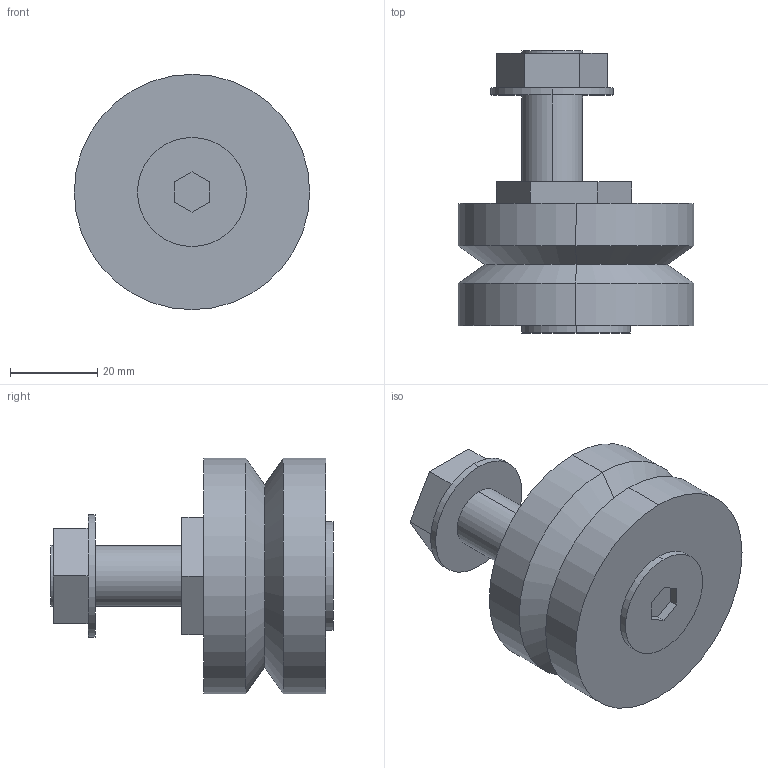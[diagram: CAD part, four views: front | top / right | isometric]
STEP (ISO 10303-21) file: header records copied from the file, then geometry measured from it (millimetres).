
FILE_DESCRIPTION(('STEP AP203'),'1');
FILE_NAME('rlj_54_de.stp','2021-03-03T10:27:05',('TraceParts'),('TraceParts S.A.'),'Spatial InterOp 3D',' ',' ');
FILE_SCHEMA(('CONFIG_CONTROL_DESIGN'));
Length unit declared in the file: millimetre
Products named in the file (1): 1
Bounding box: 54 x 64.7 x 54 mm (x, y, z)
Volume: 71278.8 mm3; surface area: 13414.4 mm2
Topology: 1 solids, 1 shells, 50 faces, 114 edges, 74 vertices
Faces by surface type: plane 34, cylinder 12, cone 4
Entity records: 1440 total; most frequent: DIRECTION 242, CARTESIAN_POINT 239, ORIENTED_EDGE 228, EDGE_CURVE 114, LINE 88, VECTOR 88, AXIS2_PLACEMENT_3D 77, VERTEX_POINT 74
